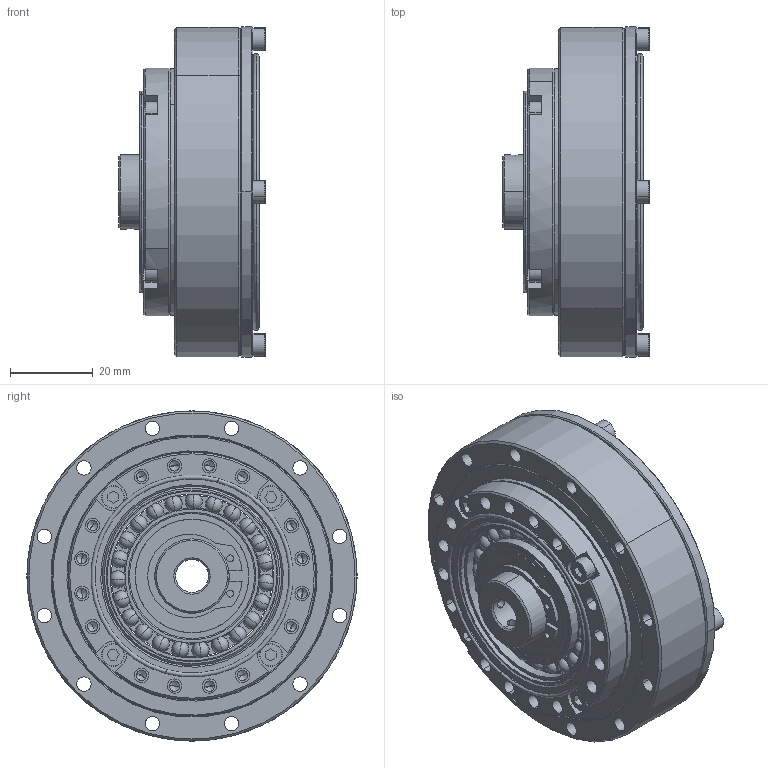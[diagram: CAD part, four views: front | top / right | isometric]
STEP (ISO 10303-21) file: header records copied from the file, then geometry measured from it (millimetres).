
FILE_DESCRIPTION (( 'STEP AP203' ), '1' );
FILE_NAME ('FHG-17-XXX-SO.STEP', '2023-01-29T05:40:09', ( '微软用户' ), ( '微软中国' ), 'SwSTEP 2.0', 'SolidWorks 2016', '' );
FILE_SCHEMA (( 'CONFIG_CONTROL_DESIGN' ));
Length unit declared in the file: millimetre
Products named in the file (1): FHG-17-XXX-SO
Bounding box: 35.5 x 80 x 80 mm (x, y, z)
Volume: 78102.2 mm3; surface area: 69060.3 mm2
Topology: 49 solids, 49 shells, 851 faces, 2138 edges, 1340 vertices
Faces by surface type: cylinder 376, plane 217, cone 140, torus 72, sphere 46
Entity records: 25029 total; most frequent: DIRECTION 4782, CARTESIAN_POINT 4334, ORIENTED_EDGE 3950, AXIS2_PLACEMENT_3D 1991, EDGE_CURVE 1975, VERTEX_POINT 1271, CIRCLE 1139, EDGE_LOOP 1036
